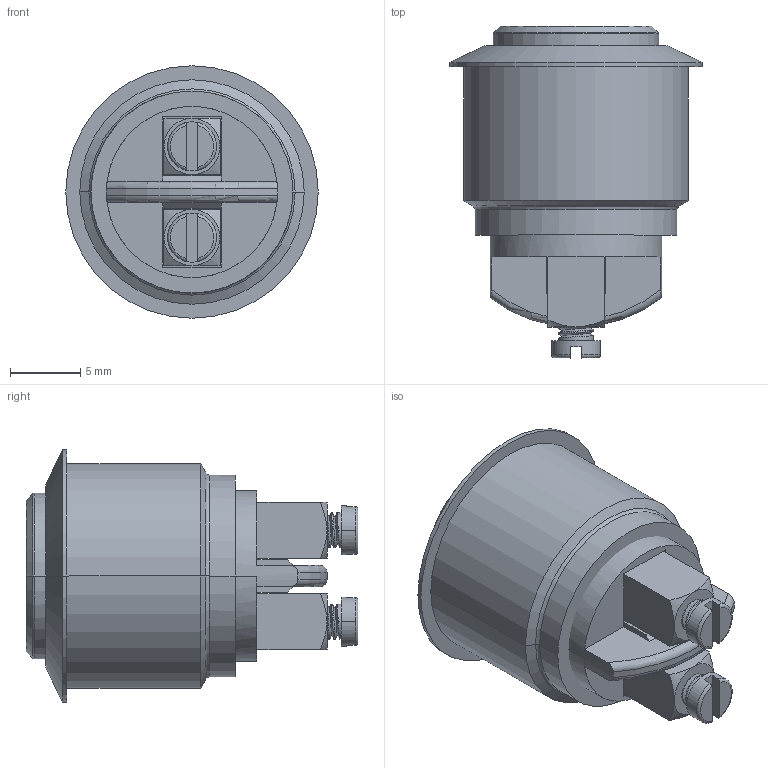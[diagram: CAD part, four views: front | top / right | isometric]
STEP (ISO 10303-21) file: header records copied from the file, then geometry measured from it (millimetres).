
FILE_DESCRIPTION((''),'2;1');
FILE_NAME('AV0630C900','2014-12-18T',('brevel'),(''),'PRO/ENGINEER BY PARAMETRIC TECHNOLOGY CORPORATION, 2013410','PRO/ENGINEER BY PARAMETRIC TECHNOLOGY CORPORATION, 2013410','');
FILE_SCHEMA(('CONFIG_CONTROL_DESIGN'));
Length unit declared in the file: millimetre
Products named in the file (1): AV0630C900
Bounding box: 18 x 23.65 x 18 mm (x, y, z)
Surface area: 2155 mm2 (no closed solid volume)
Topology: 0 solids, 10 shells, 101 faces, 270 edges, 180 vertices
Faces by surface type: plane 48, cylinder 25, cone 14, torus 10, bspline 4
Entity records: 5082 total; most frequent: CARTESIAN_POINT 2606, ORIENTED_EDGE 506, DIRECTION 492, EDGE_CURVE 270, AXIS2_PLACEMENT_3D 185, VERTEX_POINT 180, VECTOR 122, LINE 122
